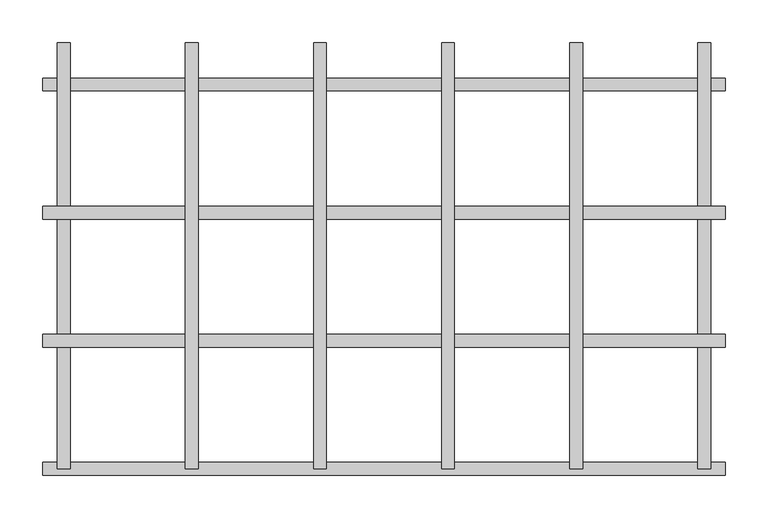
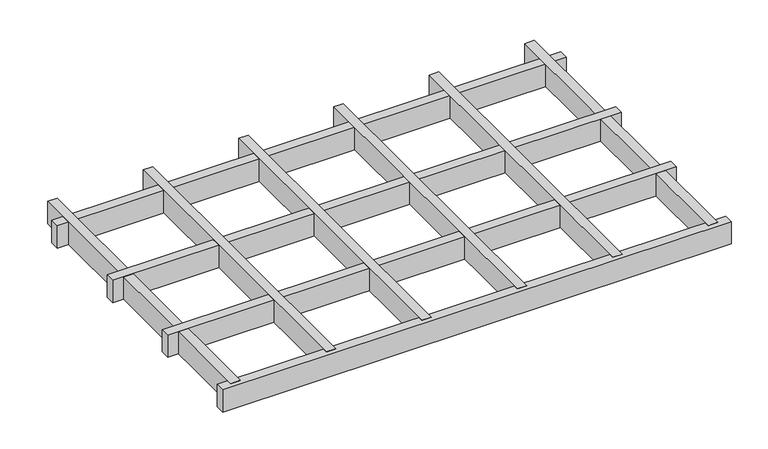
"""IFC4 building model written with IfcOpenShell, lengths in millimetres: proxy geometry, durlum_GEO_panel : durlum_GEO_15_corner_cut."""

from ifc_helpers import new_model, si_unit, origin, origin_with_axes, place, context, project, spatial, polyline, outline, extrude, source, transform, mapped, element, save


def generic_models_c55380b1(model_context):
    return source(origin(), model_context, "Body", "SweptSolid", [
        extrude(outline(polyline([(217.5, 249.5), (232.5, 249.5), (232.5, -249.5), (217.5, -249.5), (217.5, 249.5)])), origin_with_axes(), (0.0, 0.0, 1.0), 37.0),
        extrude(outline(polyline([(67.5, 249.5), (82.5, 249.5), (82.5, -249.5), (67.5, -249.5), (67.5, 249.5)])), origin_with_axes(), (0.0, 0.0, 1.0), 37.0),
        extrude(outline(polyline([(-82.5, 249.5), (-67.5, 249.5), (-67.5, -249.5), (-82.5, -249.5), (-82.5, 249.5)])), origin_with_axes(), (0.0, 0.0, 1.0), 37.0),
        extrude(outline(polyline([(-232.5, 249.5), (-217.5, 249.5), (-217.5, -249.5), (-232.5, -249.5), (-232.5, 249.5)])), origin_with_axes(), (0.0, 0.0, 1.0), 37.0),
        extrude(outline(polyline([(399.75, -92.0), (399.75, -107.0), (-399.75, -107.0), (-399.75, -92.0), (399.75, -92.0)])), origin_with_axes(), (0.0, 0.0, 1.0), 37.0),
        extrude(outline(polyline([(399.75, 58.0), (399.75, 43.0), (-399.75, 43.0), (-399.75, 58.0), (399.75, 58.0)])), origin_with_axes(), (0.0, 0.0, 1.0), 37.0),
        extrude(outline(polyline([(367.5, 249.5), (382.5, 249.5), (382.5, -249.5), (367.5, -249.5), (367.5, 249.5)])), origin_with_axes(), (0.0, 0.0, 1.0), 37.0),
        extrude(outline(polyline([(-382.5, 249.5), (-367.5, 249.5), (-367.5, -249.5), (-382.5, -249.5), (-382.5, 249.5)])), origin_with_axes(), (0.0, 0.0, 1.0), 37.0),
        extrude(outline(polyline([(399.75, -242.0), (399.75, -257.0), (-399.75, -257.0), (-399.75, -242.0), (399.75, -242.0)])), origin_with_axes(), (0.0, 0.0, 1.0), 37.0),
        extrude(outline(polyline([(399.75, 208.0), (399.75, 193.0), (-399.75, 193.0), (-399.75, 208.0), (399.75, 208.0)])), origin_with_axes(), (0.0, 0.0, 1.0), 37.0),
    ])


if __name__ == "__main__":
    model = new_model("IFC4")
    model_context = context("Model", 3, world=origin())
    ifc_project = project(units=[si_unit("LENGTHUNIT", "METRE", prefix="MILLI")], contexts=[model_context])
    site = spatial("IfcSite", under=ifc_project)
    building = spatial("IfcBuilding", under=site)
    placement = place(None, origin())
    generic_models_shape = generic_models_c55380b1(model_context)
    element("IfcBuildingElementProxy", 1, Name="durlum_GEO_panel : durlum_GEO_15_corner_cut", ObjectType="durlum_GEO_panel : durlum_GEO_15_corner_cut", at=placement, inside=building, context=model_context, shape_type="MappedRepresentation", body=[
        mapped(generic_models_shape, transform((0.0, 0.0, 0.0), x_axis=(1.0, 0.0, 0.0), y_axis=(0.0, 1.0, 0.0), z_axis=(0.0, 0.0, 1.0))),
    ])
    save(model, "model.ifc")
